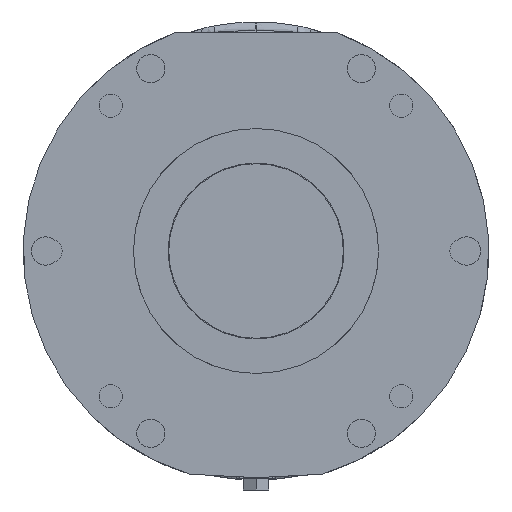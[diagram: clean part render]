
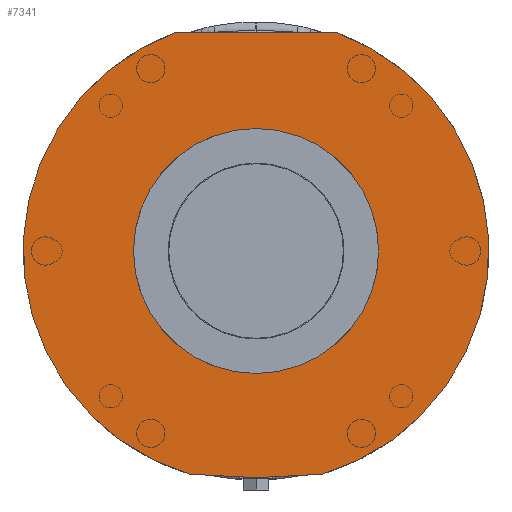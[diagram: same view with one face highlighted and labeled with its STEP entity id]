
A CAD part, front view. The second image highlights one B-rep face of the part: STEP entity #7341.
In plain terms, the highlighted planar face has unit normal (0, -1, 0).
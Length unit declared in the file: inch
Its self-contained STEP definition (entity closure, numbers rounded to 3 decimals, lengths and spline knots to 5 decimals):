
#3463=DIRECTION('',(-1.,0.,0.));
#3464=VECTOR('',#3463,1.96125);
#3465=CARTESIAN_POINT('',(0.98062,0.,2.66));
#3466=LINE('',#3465,#3464);
#3467=CARTESIAN_POINT('',(0.,0.,0.));
#3468=DIRECTION('',(0.,1.,0.));
#3469=DIRECTION('',(0.346,0.,0.938));
#3470=AXIS2_PLACEMENT_3D('',#3467,#3468,#3469);
#3472=CARTESIAN_POINT('',(0.80393,0.,-2.68733));
#3473=DIRECTION('',(0.,1.,0.));
#3474=DIRECTION('',(0.287,0.,-0.958));
#3475=AXIS2_PLACEMENT_3D('',#3472,#3473,#3474);
#3477=CARTESIAN_POINT('',(-0.80393,0.,-2.68733));
#3478=DIRECTION('',(0.,1.,0.));
#3479=DIRECTION('',(-0.052,0.,-0.999));
#3480=AXIS2_PLACEMENT_3D('',#3477,#3478,#3479);
#3482=CARTESIAN_POINT('',(0.,0.,0.));
#3483=DIRECTION('',(0.,1.,0.));
#3484=DIRECTION('',(-0.287,0.,-0.958));
#3485=AXIS2_PLACEMENT_3D('',#3482,#3483,#3484);
#4336=DIRECTION('',(0.999,0.,0.052));
#4337=VECTOR('',#4336,0.8066);
#4338=CARTESIAN_POINT('',(0.,0.,-2.7595));
#4339=LINE('',#4338,#4337);
#4410=DIRECTION('',(0.999,0.,-0.052));
#4411=VECTOR('',#4410,0.8066);
#4412=CARTESIAN_POINT('',(-0.8055,0.,-2.71729));
#4413=LINE('',#4412,#4411);
#6181=CARTESIAN_POINT('',(-0.98062,0.,2.66));
#6182=VERTEX_POINT('',#6181);
#6183=CARTESIAN_POINT('',(0.98062,0.,2.66));
#6184=VERTEX_POINT('',#6183);
#6205=CARTESIAN_POINT('',(-0.81253,0.,-2.71607));
#6206=VERTEX_POINT('',#6205);
#6207=CARTESIAN_POINT('',(0.81253,0.,-2.71607));
#6208=VERTEX_POINT('',#6207);
#6503=CARTESIAN_POINT('',(0.,0.,-2.7595));
#6504=CARTESIAN_POINT('',(0.8055,0.,-2.71729));
#6505=VERTEX_POINT('',#6503);
#6506=VERTEX_POINT('',#6504);
#6507=CARTESIAN_POINT('',(-0.8055,0.,-2.71729));
#6508=VERTEX_POINT('',#6507);
#7322=CARTESIAN_POINT('',(0.,0.,0.));
#7323=DIRECTION('',(0.,-1.,0.));
#7324=DIRECTION('',(0.,0.,1.));
#7325=AXIS2_PLACEMENT_3D('',#7322,#7323,#7324);
#7326=PLANE('',#7325);
#7328=ORIENTED_EDGE('',*,*,#7327,.F.);
#7329=ORIENTED_EDGE('',*,*,#6800,.T.);
#7331=ORIENTED_EDGE('',*,*,#7330,.T.);
#7333=ORIENTED_EDGE('',*,*,#7332,.F.);
#7335=ORIENTED_EDGE('',*,*,#7334,.F.);
#7337=ORIENTED_EDGE('',*,*,#7336,.T.);
#7338=ORIENTED_EDGE('',*,*,#6782,.T.);
#7339=EDGE_LOOP('',(#7328,#7329,#7331,#7333,#7335,#7337,#7338));
#7340=FACE_OUTER_BOUND('',#7339,.F.);
#7341=ADVANCED_FACE('',(#7340),#7326,.T.);
#3471=CIRCLE('',#3470,2.835);
#3476=CIRCLE('',#3475,0.03);
#3481=CIRCLE('',#3480,0.03);
#3486=CIRCLE('',#3485,2.835);
#6782=EDGE_CURVE('',#6206,#6182,#3486,.T.);
#6800=EDGE_CURVE('',#6184,#6208,#3471,.T.);
#7327=EDGE_CURVE('',#6184,#6182,#3466,.T.);
#7330=EDGE_CURVE('',#6208,#6506,#3476,.T.);
#7332=EDGE_CURVE('',#6505,#6506,#4339,.T.);
#7334=EDGE_CURVE('',#6508,#6505,#4413,.T.);
#7336=EDGE_CURVE('',#6508,#6206,#3481,.T.);
